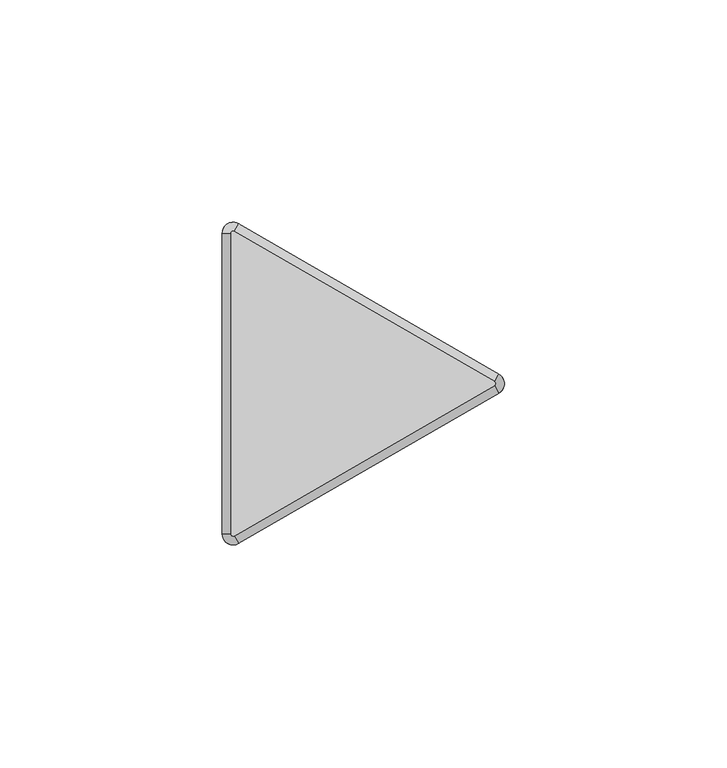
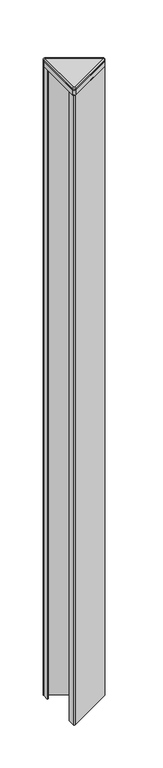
"""IFC4 building model written with IfcOpenShell, lengths in millimetres: furniture geometry, Steelcase - Answer Solution - Panel - 120deg Change-of-Height Trim - Thin : Y Corner - 36H for 90H App."""

import ifcopenshell
import ifcopenshell.guid

model = None  # the IFC model being written
_history = None  # IfcOwnerHistory: only IFC2X3 demands one
_inside = {}  # id of a spatial element -> (the spatial element, [elements in it])
_under = {}  # id of a project, library or spatial element -> (it, [spatial elements below it])
_declared = {}  # id of a project -> (the project, [libraries it declares])
_typed = {}  # id of a type object -> (the type object, [elements of that type])
_made_of = {}  # id of a material, layer set ... -> (it, [elements and type objects made of it])


def new_model(schema):
    """Start an empty IFC model of exactly this schema.

    Asked for "IFC4X3", IfcOpenShell would pick the latest addendum, in which some entities
    have other attributes; the version numbers below select the first issue.
    IFC2X3 requires an IfcOwnerHistory on every rooted entity: one is made here for all.
    """
    global model, _history
    if schema == "IFC4X3":
        model = ifcopenshell.file(schema_version=(4, 3, 0, 0))
    else:
        model = ifcopenshell.file(schema=schema)
    _inside.clear()
    _under.clear()
    _declared.clear()
    _typed.clear()
    _made_of.clear()
    _history = None
    if model.schema == "IFC2X3":
        org = make("IfcOrganization", Name="unknown")
        user = make(
            "IfcPersonAndOrganization",
            ThePerson=make("IfcPerson", FamilyName="unknown"),
            TheOrganization=org,
        )
        app = make(
            "IfcApplication",
            ApplicationDeveloper=org,
            Version="unknown",
            ApplicationFullName="unknown",
            ApplicationIdentifier="unknown",
        )
        _history = make(
            "IfcOwnerHistory",
            OwningUser=user,
            OwningApplication=app,
            ChangeAction="ADDED",
            CreationDate=0,
        )
    return model


def make(cls, **values):
    """One entity of the class cls with the attributes given. An attribute that is None is left unset."""
    return model.create_entity(
        cls, **{name: value for name, value in values.items() if value is not None}
    )


def rooted(cls, **values):
    """An entity with a GlobalId (a new one), such as an element, a storey or a relation."""
    return make(cls, GlobalId=ifcopenshell.guid.new(), OwnerHistory=_history, **values)


def si_unit(unit_type, name, prefix=None):
    """IfcSIUnit, for example si_unit("LENGTHUNIT", "METRE", prefix="MILLI")."""
    return make("IfcSIUnit", UnitType=unit_type, Prefix=prefix, Name=name)


def assignment(units):
    """IfcUnitAssignment: the units of a project."""
    return None if units is None else make("IfcUnitAssignment", Units=units)


def point(xyz):
    """IfcCartesianPoint."""
    return None if xyz is None else make("IfcCartesianPoint", Coordinates=xyz)


def direction(xyz):
    """IfcDirection."""
    return None if xyz is None else make("IfcDirection", DirectionRatios=xyz)


def frame(location, z_axis=None, x_axis=None):
    """IfcAxis2Placement3D, a coordinate frame: its origin and axes. An axis left out is left unset."""
    return make(
        "IfcAxis2Placement3D",
        Location=point(location),
        Axis=direction(z_axis),
        RefDirection=direction(x_axis),
    )


def frame_2d(location, x_axis=None):
    """IfcAxis2Placement2D, a coordinate frame in the plane: its origin and x axis."""
    return make(
        "IfcAxis2Placement2D", Location=point(location), RefDirection=direction(x_axis)
    )


def origin():
    """The frame at (0, 0, 0) with its axes left unset."""
    return frame((0.0, 0.0, 0.0))


def place(relative_to, where):
    """IfcLocalPlacement: puts the frame where relative to a parent placement (None: the world)."""
    return make(
        "IfcLocalPlacement", PlacementRelTo=relative_to, RelativePlacement=where
    )


def context(
    kind, dimensions, precision=None, world=None, true_north=None, identifier=None
):
    """IfcGeometricRepresentationContext, for example the 3D "Model" context."""
    return make(
        "IfcGeometricRepresentationContext",
        ContextIdentifier=identifier,
        ContextType=kind,
        CoordinateSpaceDimension=dimensions,
        Precision=precision,
        WorldCoordinateSystem=world,
        TrueNorth=true_north,
    )


def project(units=None, contexts=None):
    """IfcProject with its units and contexts."""
    return rooted(
        "IfcProject",
        Name="project",
        RepresentationContexts=contexts,
        UnitsInContext=assignment(units),
    )


def spatial(cls, under=None, at=None, **own):
    """A site, building, storey or space (cls), placed at a placement, below another one or the project."""
    s = rooted(cls, ObjectPlacement=at, **own)
    if under is not None:
        _under.setdefault(under.id(), (under, []))[1].append(s)
    return s


def polyline(points):
    """IfcPolyline through the points."""
    return make("IfcPolyline", Points=[point(p) for p in points])


def circle_curve(where, radius):
    """IfcCircle in the frame where."""
    return make("IfcCircle", Position=where, Radius=radius)


def ellipse_curve(where, semi_axis1, semi_axis2):
    """IfcEllipse in the frame where."""
    return make(
        "IfcEllipse", Position=where, SemiAxis1=semi_axis1, SemiAxis2=semi_axis2
    )


def trimmed(basis, trim1, trim2, sense, master):
    """IfcTrimmedCurve: the piece of a basis curve between two trims."""
    return make(
        "IfcTrimmedCurve",
        BasisCurve=basis,
        Trim1=trim1,
        Trim2=trim2,
        SenseAgreement=sense,
        MasterRepresentation=master,
    )


def segment(curve, same_sense, transition):
    """IfcCompositeCurveSegment."""
    return make(
        "IfcCompositeCurveSegment",
        Transition=transition,
        SameSense=same_sense,
        ParentCurve=curve,
    )


def composite_curve(segments, self_intersect=None):
    """IfcCompositeCurve: segments joined end to end."""
    return make("IfcCompositeCurve", Segments=segments, SelfIntersect=self_intersect)


def outline(outer, holes=None, kind="AREA"):
    """IfcArbitraryClosedProfileDef: a profile drawn as a closed curve; with holes, ...WithVoids."""
    if holes is None:
        return make("IfcArbitraryClosedProfileDef", ProfileType=kind, OuterCurve=outer)
    return make(
        "IfcArbitraryProfileDefWithVoids",
        ProfileType=kind,
        OuterCurve=outer,
        InnerCurves=holes,
    )


def extrude(swept, where, along, depth):
    """IfcExtrudedAreaSolid: the profile swept, set in the frame where, extruded along a direction by depth."""
    return make(
        "IfcExtrudedAreaSolid",
        SweptArea=swept,
        Position=where,
        ExtrudedDirection=direction(along),
        Depth=depth,
    )


def shape(context_of_items, identifier, shape_type, items):
    """IfcShapeRepresentation: the items that make up one representation, for example the "Body"."""
    return make(
        "IfcShapeRepresentation",
        ContextOfItems=context_of_items,
        RepresentationIdentifier=identifier,
        RepresentationType=shape_type,
        Items=items,
    )


def source(mapping_origin, context_of_items, identifier, shape_type, items):
    """IfcRepresentationMap: a shape defined once, which mapped items show again and again."""
    return make(
        "IfcRepresentationMap",
        MappingOrigin=mapping_origin,
        MappedRepresentation=shape(context_of_items, identifier, shape_type, items),
    )


def transform(
    local_origin,
    x_axis=None,
    y_axis=None,
    z_axis=None,
    scale=None,
    scale2=None,
    scale3=None,
    uniform=True,
):
    """IfcCartesianTransformationOperator3D, or its non-uniform kind. x_axis, y_axis, z_axis: its Axis1, 2, 3."""
    if uniform:
        return make(
            "IfcCartesianTransformationOperator3D",
            Axis1=direction(x_axis),
            Axis2=direction(y_axis),
            LocalOrigin=point(local_origin),
            Scale=scale,
            Axis3=direction(z_axis),
        )
    return make(
        "IfcCartesianTransformationOperator3DnonUniform",
        Axis1=direction(x_axis),
        Axis2=direction(y_axis),
        LocalOrigin=point(local_origin),
        Scale=scale,
        Axis3=direction(z_axis),
        Scale2=scale2,
        Scale3=scale3,
    )


def mapped(mapping_source, mapping_target):
    """IfcMappedItem: shows the shape of a source again, moved by a transform."""
    return make(
        "IfcMappedItem", MappingSource=mapping_source, MappingTarget=mapping_target
    )


def made_of(thing, what):
    """Note that an element or type object is made of a material, layer set ...; save() writes the relation."""
    if what is not None:
        _made_of.setdefault(what.id(), (what, []))[1].append(thing)
    return thing


def element(
    cls,
    number,
    at=None,
    inside=None,
    cuts=None,
    type_object=None,
    material=None,
    context=None,
    identifier="Body",
    shape_type=None,
    held_by="IfcProductDefinitionShape",
    body=None,
    shapes=None,
    **own,
):
    """One element of the class cls, such as IfcWall. Its Tag is "e" and its number.

    at: its placement. inside: the storey or other place that contains it. cuts: it is an
    opening in that element (IfcRelVoidsElement). A single representation is given by context,
    identifier, shape_type and body (its items); several are given by shapes. held_by: the class
    of the entity that holds the representations. save() writes the other relations.
    """
    e = rooted(cls, Tag="e%d" % number, ObjectPlacement=at, **own)
    if body is not None:
        shapes = [shape(context, identifier, shape_type, body)]
    if shapes is not None:
        e.Representation = make(held_by, Representations=shapes)
    if inside is not None:
        _inside.setdefault(inside.id(), (inside, []))[1].append(e)
    if cuts is not None:
        rooted(
            "IfcRelVoidsElement", RelatingBuildingElement=cuts, RelatedOpeningElement=e
        )
    if type_object is not None:
        _typed.setdefault(type_object.id(), (type_object, []))[1].append(e)
    return made_of(e, material)


def aggregate(whole, parts):
    """IfcRelAggregates: a whole, such as a stair, and the parts it consists of."""
    return rooted("IfcRelAggregates", RelatingObject=whole, RelatedObjects=parts)


def save(model, path):
    """Write the relations noted so far, then the file.

    IfcRelAggregates (storeys below a building ...), IfcRelContainedInSpatialStructure (elements
    in a storey), IfcRelDefinesByType, IfcRelAssociatesMaterial and IfcRelDeclares: one each for
    every whole, place, type object, material and project.
    """
    for whole, parts in _under.values():
        aggregate(whole, parts)
    for where, things in _inside.values():
        rooted(
            "IfcRelContainedInSpatialStructure",
            RelatedElements=things,
            RelatingStructure=where,
        )
    for kind, things in _typed.values():
        rooted("IfcRelDefinesByType", RelatedObjects=things, RelatingType=kind)
    for what, things in _made_of.values():
        rooted("IfcRelAssociatesMaterial", RelatedObjects=things, RelatingMaterial=what)
    for by, libraries in _declared.values():
        rooted("IfcRelDeclares", RelatingContext=by, RelatedDefinitions=libraries)
    model.write(path)


def plane_surface(at):
    """IfcPlane: the flat surface through the origin of the frame at, square to its z axis."""
    return make("IfcPlane", Position=at)


def cylinder_surface(at, radius):
    """IfcCylindricalSurface: all points at the distance radius from the z axis of the frame at."""
    return make("IfcCylindricalSurface", Position=at, Radius=radius)


def revolved_surface(curve, axis_point, axis_direction):
    """IfcSurfaceOfRevolution: the curve turned about the line through axis_point along axis_direction."""
    return make(
        "IfcSurfaceOfRevolution",
        SweptCurve=make("IfcArbitraryOpenProfileDef", ProfileType="CURVE", Curve=curve),
        AxisPosition=make("IfcAxis1Placement", Location=point(axis_point), Axis=direction(axis_direction)),
    )


def advanced_brep(points, edges, surfaces, faces):
    """IfcAdvancedBrep: a solid bounded by faces that lie on surfaces and meet in shared edges.

    An edge is (start, end): straight between two places in points (the first is 0);
    or (start, end, curve); or (start, end, curve, False) where it runs against its curve.
    A face is (place in surfaces, loops), or (place, loops, False) where it looks against
    its surface's normal. A loop lists edges by number (the first is 1), with a minus sign
    where the edge is run from its end to its start. The first loop is the outer one.
    """
    corners = [point(p) for p in points]
    vertices = [make("IfcVertexPoint", VertexGeometry=c) for c in corners]
    made = []
    for start, end, *more in edges:
        made.append(
            make(
                "IfcEdgeCurve",
                EdgeStart=vertices[start],
                EdgeEnd=vertices[end],
                EdgeGeometry=more[0] if more else make("IfcPolyline", Points=[corners[start], corners[end]]),
                SameSense=more[1] if len(more) > 1 else True,
            )
        )
    hull = []
    for where, loops, *sense in faces:
        bounds = []
        for j, loop in enumerate(loops):
            ring = [make("IfcOrientedEdge", EdgeElement=made[abs(k) - 1], Orientation=k > 0) for k in loop]
            bounds.append(
                make(
                    "IfcFaceOuterBound" if j == 0 else "IfcFaceBound",
                    Bound=make("IfcEdgeLoop", EdgeList=ring),
                    Orientation=True,
                )
            )
        hull.append(make("IfcAdvancedFace", Bounds=bounds, FaceSurface=surfaces[where], SameSense=sense[0] if sense else True))
    return make("IfcAdvancedBrep", Outer=make("IfcClosedShell", CfsFaces=hull))


def furniture_2c894901(model_context):
    return source(origin(), model_context, "Body", "SolidModel", [
        advanced_brep(
        [(-10.518645, -37.3335529, 2290.4628978), (-14.2052101, -35.2051135, 2290.4628978), (-14.2052101, -35.2051135, 2289.5164663), (-10.518645, -37.3335529, 2289.5164663), (-11.46175, -35.7000471, 2292.35), (-12.319, -35.2051135, 2292.35), (-11.46175, -35.7000471, 2289.5164663), (-12.319, -35.2051135, 2289.5164663), (48.0429908, -3.5229767, 2289.5164663), (48.0429908, -3.5229767, 2290.4628978), (47.0998858, -1.8894709, 2292.35), (47.0998858, -1.8894709, 2289.5164663), (48.0429908, 0.733902, 2290.4628978), (48.0429908, 0.733902, 2289.5164663), (47.0998858, -0.8996038, 2292.35), (47.0998858, -0.8996038, 2289.5164663), (-10.518645, 34.5444782, 2289.5164663), (-14.2052101, 32.4160388, 2289.5164663), (-11.46175, 32.9109723, 2289.5164663), (-12.319, 32.4160388, 2289.5164663), (-10.518645, 34.5444782, 2290.4628978), (-11.46175, 32.9109723, 2292.35), (-14.2052101, 32.4160388, 2290.4628978), (-12.319, 32.4160388, 2292.35)],
        [
            (0, 1, circle_curve(frame((-11.7475, -35.2051135, 2290.4628978), z_axis=(0.0, 0.0, -1.0), x_axis=(-1.0, 0.0, 0.0)), 2.4577101)),
            (1, 2),
            (2, 3, circle_curve(frame((-11.7475, -35.2051135, 2289.5164663), z_axis=(0.0, 0.0, 1.0), x_axis=(-1.0, 0.0, 0.0)), 2.4577101)),
            (3, 0),
            (4, 5, circle_curve(frame((-11.7475, -35.2051135, 2292.35), z_axis=(0.0, 0.0, -1.0), x_axis=(-1.0, 0.0, 0.0)), 0.5715)),
            (5, 1, circle_curve(frame((-12.3181076, -35.2051135, 2290.4628978), z_axis=(0.0, -1.0, 0.0), x_axis=(1.0, 0.0, 0.0)), 1.8871024)),
            (0, 4, circle_curve(frame((-11.4621962, -35.6992743, 2290.4628978), z_axis=(-0.8660254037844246, -0.5000000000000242, 0.0), x_axis=(-0.5000000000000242, 0.8660254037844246, 0.0)), 1.8871024)),
            (6, 7, circle_curve(frame((-11.7475, -35.2051135, 2289.5164663), z_axis=(0.0, 0.0, -1.0), x_axis=(-1.0, 0.0, 0.0)), 0.5715)),
            (7, 5),
            (4, 6),
            (3, 8),
            (8, 9),
            (9, 0),
            (9, 10, circle_curve(frame((47.0994396, -1.8886981, 2290.4628978), z_axis=(-0.8660254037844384, -0.5000000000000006, 0.0), x_axis=(-0.5000000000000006, 0.8660254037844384, 0.0)), 1.8871024)),
            (10, 4),
            (10, 11),
            (11, 6),
            (12, 9, circle_curve(frame((46.8141358, -1.3945374, 2290.4628978), z_axis=(0.0, 0.0, -1.0), x_axis=(0.4999999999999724, -0.8660254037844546, 0.0)), 2.4577101)),
            (8, 13, circle_curve(frame((46.8141358, -1.3945374, 2289.5164663), z_axis=(0.0, 0.0, 1.0), x_axis=(0.4999999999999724, -0.8660254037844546, 0.0)), 2.4577101)),
            (13, 12),
            (14, 10, circle_curve(frame((46.8141358, -1.3945374, 2292.35), z_axis=(0.0, 0.0, -1.0), x_axis=(0.4999999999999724, -0.8660254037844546, 0.0)), 0.5715)),
            (12, 14, circle_curve(frame((47.0994396, -0.9003766, 2290.4628978), z_axis=(0.8660254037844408, -0.4999999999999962, 0.0), x_axis=(-0.4999999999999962, -0.8660254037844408, 0.0)), 1.8871024)),
            (15, 11, circle_curve(frame((46.8141358, -1.3945374, 2289.5164663), z_axis=(0.0, 0.0, -1.0), x_axis=(0.4999999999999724, -0.8660254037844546, 0.0)), 0.5715)),
            (14, 15),
            (16, 13),
            (2, 17),
            (17, 16, circle_curve(frame((-11.7475, 32.4160388, 2289.5164663), z_axis=(0.0, 0.0, -1.0), x_axis=(0.500000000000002, 0.8660254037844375, 0.0)), 2.4577101)),
            (15, 18),
            (18, 19, circle_curve(frame((-11.7475, 32.4160388, 2289.5164663), z_axis=(0.0, 0.0, 1.0), x_axis=(0.500000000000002, 0.8660254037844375, 0.0)), 0.5715)),
            (19, 7),
            (16, 20),
            (20, 12),
            (20, 21, circle_curve(frame((-11.4621962, 32.9101995, 2290.4628978), z_axis=(0.8660254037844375, -0.5000000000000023, 0.0), x_axis=(-0.5000000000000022, -0.8660254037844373, 0.0)), 1.8871024)),
            (21, 14),
            (21, 18),
            (22, 20, circle_curve(frame((-11.7475, 32.4160388, 2290.4628978), z_axis=(0.0, 0.0, -1.0), x_axis=(0.500000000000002, 0.8660254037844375, 0.0)), 2.4577101)),
            (17, 22),
            (23, 21, circle_curve(frame((-11.7475, 32.4160388, 2292.35), z_axis=(0.0, 0.0, -1.0), x_axis=(0.500000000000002, 0.8660254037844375, 0.0)), 0.5715)),
            (22, 23, circle_curve(frame((-12.3181076, 32.4160388, 2290.4628978), z_axis=(0.0, 1.0, 0.0), x_axis=(1.0, 0.0, 0.0)), 1.8871024)),
            (23, 19),
            (1, 22),
            (5, 23),
        ],
        [
            cylinder_surface(frame((-11.7475, -35.2051135, 0.0), z_axis=(0.0, 0.0, 1.0), x_axis=(-1.0, 0.0, 0.0)), 2.4577101),
            revolved_surface(trimmed(ellipse_curve(frame((-12.3181076, -35.2051135, 2290.4628978), z_axis=(0.0, 1.0, 0.0), x_axis=(1.0, 0.0, 0.0)), 1.8871024, 1.8871024), [point((-14.2052101, -35.2051135, 2290.4628978))], [point((-12.319, -35.2051135, 2292.35))], True, "CARTESIAN"), (-11.7475, -35.2051135, 0.0), (0.0, 0.0, 1.0)),
            revolved_surface(polyline([(-12.319, -35.2051135, 2292.35), (-12.319, -35.2051135, 2289.5164663)]), (-11.7475, -35.2051135, 0.0), (0.0, 0.0, 1.0)),
            plane_surface(frame((-10.518645, -37.3335529, 2289.5164663), z_axis=(0.5000000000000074, -0.8660254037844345, 0.0), x_axis=(0.8660254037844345, 0.5000000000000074, 0.0))),
            cylinder_surface(frame((-11.4621962, -35.6992743, 2290.4628978), z_axis=(-0.8660254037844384, -0.5000000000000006, 0.0), x_axis=(-0.5000000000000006, 0.8660254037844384, 0.0)), 1.8871024),
            plane_surface(frame((-11.46175, -35.7000471, 2292.35), z_axis=(-0.5000000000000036, 0.8660254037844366, 0.0), x_axis=(0.8660254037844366, 0.5000000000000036, 0.0))),
            cylinder_surface(frame((46.8141358, -1.3945374, 0.0), z_axis=(0.0, 0.0, 1.0), x_axis=(0.4999999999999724, -0.8660254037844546, 0.0)), 2.4577101),
            revolved_surface(trimmed(ellipse_curve(frame((47.0994396, -1.8886981, 2290.4628978), z_axis=(-0.8660254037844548, -0.499999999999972, 0.0), x_axis=(-0.499999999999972, 0.8660254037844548, 0.0)), 1.8871024, 1.8871024), [point((48.0429908, -3.5229767, 2290.4628978))], [point((47.0998858, -1.8894709, 2292.35))], True, "CARTESIAN"), (46.8141358, -1.3945374, 0.0), (0.0, 0.0, 1.0)),
            revolved_surface(polyline([(47.09988579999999, -1.8894709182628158, 2292.35), (47.09988579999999, -1.8894709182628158, 2289.5164663)]), (46.8141358, -1.3945374, 0.0), (0.0, 0.0, 1.0)),
            plane_surface(frame((47.0998858, -0.8996038, 2289.5164663), z_axis=(0.0, 0.0, -1.0000000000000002), x_axis=(-0.8660254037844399, 0.49999999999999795, 0.0))),
            plane_surface(frame((48.0429908, 0.733902, 2289.5164663), z_axis=(0.5000000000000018, 0.8660254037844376, 0.0), x_axis=(-0.8660254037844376, 0.5000000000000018, 0.0))),
            cylinder_surface(frame((47.0994396, -0.9003766, 2290.4628978), z_axis=(0.8660254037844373, -0.5000000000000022, 0.0), x_axis=(-0.5000000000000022, -0.8660254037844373, 0.0)), 1.8871024),
            plane_surface(frame((47.0998858, -0.8996038, 2292.35), z_axis=(-0.49999999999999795, -0.8660254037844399, 0.0), x_axis=(-0.8660254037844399, 0.49999999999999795, 0.0))),
            cylinder_surface(frame((-11.7475, 32.4160388, 0.0), z_axis=(0.0, 0.0, 1.0), x_axis=(0.500000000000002, 0.8660254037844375, 0.0)), 2.4577101),
            revolved_surface(trimmed(ellipse_curve(frame((-11.4621962, 32.9101995, 2290.4628978), z_axis=(0.866025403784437, -0.5000000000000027, 0.0), x_axis=(-0.5000000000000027, -0.866025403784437, 0.0)), 1.8871024, 1.8871024), [point((-10.518645, 34.5444782, 2290.4628978))], [point((-11.46175, 32.9109723, 2292.35))], True, "CARTESIAN"), (-11.7475, 32.4160388, 0.0), (0.0, 0.0, 1.0)),
            revolved_surface(polyline([(-11.461749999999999, 32.91097231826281, 2292.35), (-11.461749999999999, 32.91097231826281, 2289.5164663)]), (-11.7475, 32.4160388, 0.0), (0.0, 0.0, 1.0)),
            plane_surface(frame((-14.2052101, 32.4160388, 2289.5164663), z_axis=(-1.0, 0.0, 0.0), x_axis=(0.0, -1.0, 0.0))),
            cylinder_surface(frame((-12.3181076, 32.4160388, 2290.4628978), z_axis=(0.0, 1.0, 0.0), x_axis=(1.0, 0.0, 0.0)), 1.8871024),
            plane_surface(frame((-12.319, 32.4160388, 2292.35), z_axis=(1.0, 0.0, 0.0), x_axis=(0.0, -1.0, 0.0))),
        ],
        [
            (0, [[1, 2, 3, 4]]),
            (1, [[5, 6, -1, 7]]),
            (2, [[8, 9, -5, 10]]),
            (3, [[-4, 11, 12, 13]]),
            (4, [[-7, -13, 14, 15]]),
            (5, [[-10, -15, 16, 17]]),
            (6, [[18, -12, 19, 20]]),
            (7, [[21, -14, -18, 22]]),
            (8, [[23, -16, -21, 24]]),
            (9, [[25, -19, -11, -3, 26, 27], [-8, -17, -23, 28, 29, 30]]),
            (10, [[-20, -25, 31, 32]]),
            (11, [[-22, -32, 33, 34]]),
            (12, [[-24, -34, 35, -28]]),
            (13, [[36, -31, -27, 37]]),
            (14, [[38, -33, -36, 39]]),
            (15, [[-29, -35, -38, 40]]),
            (16, [[-37, -26, -2, 41]]),
            (17, [[-39, -41, -6, 42]]),
            (18, [[-40, -42, -9, -30]]),
        ],
    ),
        extrude(outline(composite_curve([segment(trimmed(circle_curve(frame_2d((47.9522001, -1.3945374)), 1.2978651), [point((48.6011327, -0.2705532))], [point((48.6011327, -2.5185215))], False, "CARTESIAN"), True, "CONTINUOUS"), segment(polyline([(48.6011327, -2.5185215), (-11.6879343, -37.3264306)]), True, "CONTINUOUS"), segment(trimmed(circle_curve(frame_2d((-12.3300896, -36.2141852)), 1.2843104), [point((-11.6879343, -37.3264306))], [point((-13.6144, -36.2141852))], False, "CARTESIAN"), True, "CONTINUOUS"), segment(polyline([(-13.6144, -36.2141852), (-13.6144, -27.3303775), (-12.7, -27.3303775), (-12.7, -36.8548888), (48.7191304, -1.3945374), (-12.7, 34.0658141), (-12.7, 24.5413027), (-13.6144, 24.5413027), (-13.6144, 33.4106259)]), True, "CONTINUOUS"), segment(trimmed(circle_curve(frame_2d((-12.3217269, 33.4106259)), 1.2926731), [point((-13.6144, 33.4106259))], [point((-11.6753904, 34.5301136))], False, "CARTESIAN"), True, "CONTINUOUS"), segment(polyline([(-11.6753904, 34.5301136), (48.6011327, -0.2705532)]), True, "CONTINUOUS")], self_intersect=False)), frame((0.0, 0.0, 1377.95), z_axis=(0.0, 0.0, 1.0), x_axis=(1.0, 0.0, 0.0)), (0.0, 0.0, 1.0), 904.24),
        extrude(outline(composite_curve([segment(trimmed(circle_curve(frame_2d((46.8261011, -1.3945374)), 0.5655173), [point((47.1088598, -0.904785))], [point((47.1088598, -1.8842897))], False, "CARTESIAN"), True, "CONTINUOUS"), segment(polyline([(47.1088598, -1.8842897), (-11.4505119, -35.6935587)]), True, "CONTINUOUS"), segment(trimmed(circle_curve(frame_2d((-11.7400079, -35.1921369)), 0.5789921), [point((-11.4505119, -35.6935587))], [point((-12.319, -35.1921369))], False, "CARTESIAN"), True, "CONTINUOUS"), segment(polyline([(-12.319, -35.1921369), (-12.319, 32.3985888)]), True, "CONTINUOUS"), segment(trimmed(circle_curve(frame_2d((-11.7374252, 32.3985888)), 0.5815748), [point((-12.319, 32.3985888))], [point((-11.4466378, 32.9022473))], False, "CARTESIAN"), True, "CONTINUOUS"), segment(polyline([(-11.4466378, 32.9022473), (47.1088598, -0.904785)]), True, "CONTINUOUS")], self_intersect=False)), frame((0.0, 0.0, 2289.5164663), z_axis=(0.0, 0.0, 1.0), x_axis=(1.0, 0.0, 0.0)), (0.0, 0.0, 1.0), 2.8335337),
        extrude(outline(composite_curve([segment(trimmed(circle_curve(frame_2d((46.8140443, -1.3945374)), 2.4577558), [point((48.0429222, 0.7339416))], [point((48.0429222, -3.5230163))], False, "CARTESIAN"), True, "CONTINUOUS"), segment(polyline([(48.0429222, -3.5230163), (-10.518058, -37.333214)]), True, "CONTINUOUS"), segment(trimmed(circle_curve(frame_2d((-11.7471087, -35.2044357)), 2.4581014), [point((-10.518058, -37.333214))], [point((-14.2052101, -35.2044357))], False, "CARTESIAN"), True, "CONTINUOUS"), segment(polyline([(-14.2052101, -35.2044357), (-14.2052101, 32.4160388)]), True, "CONTINUOUS"), segment(trimmed(circle_curve(frame_2d((-11.7475, 32.4160388)), 2.4577101), [point((-14.2052101, 32.4160388))], [point((-10.518645, 34.5444782))], False, "CARTESIAN"), True, "CONTINUOUS"), segment(polyline([(-10.518645, 34.5444782), (48.0429222, 0.7339416)]), True, "CONTINUOUS")], self_intersect=False)), frame((0.0, 0.0, 2282.19), z_axis=(0.0, 0.0, 1.0), x_axis=(1.0, 0.0, 0.0)), (0.0, 0.0, 1.0), 7.3264663),
    ])


if __name__ == "__main__":
    model = new_model("IFC4")
    model_context = context("Model", 3, world=origin())
    ifc_project = project(units=[si_unit("LENGTHUNIT", "METRE", prefix="MILLI")], contexts=[model_context])
    site = spatial("IfcSite", under=ifc_project)
    building = spatial("IfcBuilding", under=site)
    placement = place(None, origin())
    furniture_shape = furniture_2c894901(model_context)
    element("IfcFurniture", 1, ObjectType="Steelcase - Answer Solution - Panel - 120deg Change-of-Height Trim - Thin : Y Corner - 36H for 90H App", at=placement, inside=building, context=model_context, shape_type="MappedRepresentation", body=[
        mapped(furniture_shape, transform((0.0, 0.0, 0.0), x_axis=(1.0, 0.0, 0.0), y_axis=(0.0, 1.0, 0.0), z_axis=(0.0, 0.0, 1.0))),
    ])
    save(model, "model.ifc")
